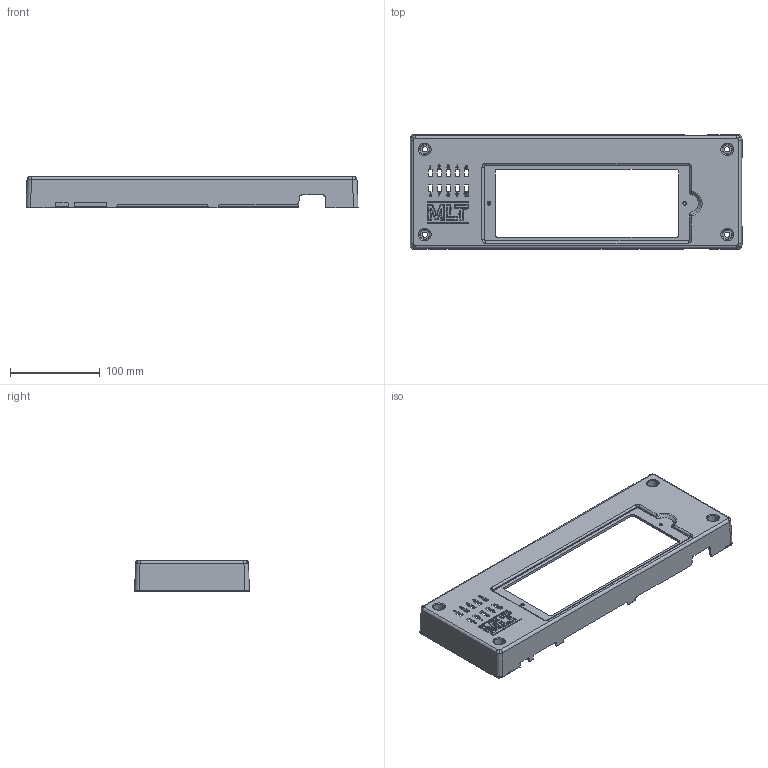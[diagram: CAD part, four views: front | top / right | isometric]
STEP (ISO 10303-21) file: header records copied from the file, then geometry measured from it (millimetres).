
FILE_DESCRIPTION(/* description */ (''),/* implementation_level */ '2;1');
FILE_NAME(/* name */ 'SwitchMaster - Slideswitches Top Housing.step',/* time_stamp */ '2026-06-19T16:05:36+09:30',/* author */ (''),/* organization */ (''),/* preprocessor_version */ 'ST-DEVELOPER v20.1',/* originating_system */ 'Autodesk Translation Framework v15.8.0.0',/* authorisation */ '');
FILE_SCHEMA (('AUTOMOTIVE_DESIGN { 1 0 10303 214 3 1 1 }'));
Products named in the file (3): 2026-06-19-16-05-35-444; 2026-06-19-16-05-35-431; 2026-06-19-16-05-35-430
Assembly tree (7 placements, depth 2):
  2026-06-19-16-05-35-444
    2026-06-19-16-05-35-431
    2026-06-19-16-05-35-430  x6
Bounding box: 370 x 128 x 35.5 mm (x, y, z)
Volume: 191862.9 mm3; surface area: 149847.4 mm2
Topology: 7 solids, 7 shells, 3526 faces, 9273 edges, 5829 vertices
Faces by surface type: cylinder 1363, bspline 1351, plane 534, sphere 197, cone 66, torus 15
Full cylindrical faces by diameter (mm): 2.5 x6, 3.2 x12, 3.66 x6, 3.855 x6, 3.91 x6, 4 x6, 5.8 x4
Entity records: 87706 total; most frequent: CARTESIAN_POINT 37055, ORIENTED_EDGE 11058, DIRECTION 10074, EDGE_CURVE 5529, AXIS2_PLACEMENT_3D 3834, VERTEX_POINT 3344, LINE 2406, VECTOR 2406
